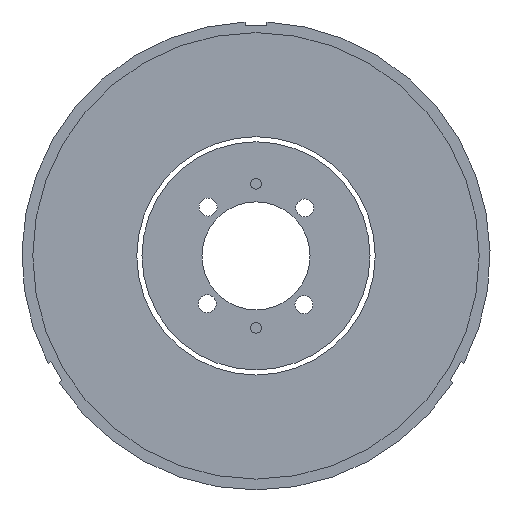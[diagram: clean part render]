
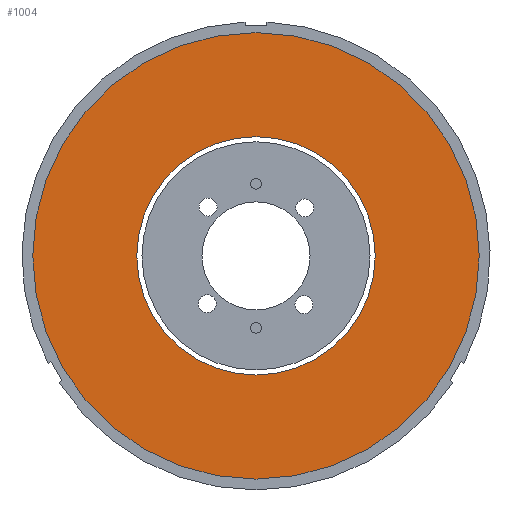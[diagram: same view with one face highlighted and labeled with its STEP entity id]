
A CAD part, front view. The second image highlights one B-rep face of the part: STEP entity #1004.
In plain terms, the highlighted planar face has unit normal (0, -1, 0).
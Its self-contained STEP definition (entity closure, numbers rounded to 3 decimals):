
#19 = CIRCLE ( 'NONE', #224, 31. ) ;
#160 = CARTESIAN_POINT ( 'NONE',  ( 1.862, 1.581, 26.4 ) ) ;
#164 = ORIENTED_EDGE ( 'NONE', *, *, #1415, .F. ) ;
#224 = AXIS2_PLACEMENT_3D ( 'NONE', #160, #3297, #422 ) ;
#263 = EDGE_LOOP ( 'NONE', ( #2492, #631 ) ) ;
#264 = EDGE_CURVE ( 'NONE', #2256, #1587, #729, .T. ) ;
#351 = AXIS2_PLACEMENT_3D ( 'NONE', #2126, #833, #2932 ) ;
#422 = DIRECTION ( 'NONE',  ( 0., 0., 1. ) ) ;
#554 = CARTESIAN_POINT ( 'NONE',  ( 1.862, 1.581, 26.4 ) ) ;
#631 = ORIENTED_EDGE ( 'NONE', *, *, #903, .T. ) ;
#682 = CIRCLE ( 'NONE', #1009, 16.55 ) ;
#729 = CIRCLE ( 'NONE', #351, 31. ) ;
#736 = CARTESIAN_POINT ( 'NONE',  ( 1.862, 1.581, -4.6 ) ) ;
#776 = DIRECTION ( 'NONE',  ( 0., 0., 1. ) ) ;
#833 = DIRECTION ( 'NONE',  ( 0., 1., 0. ) ) ;
#903 = EDGE_CURVE ( 'NONE', #1988, #3066, #682, .T. ) ;
#1004 = ADVANCED_FACE ( 'NONE', ( #1576, #3136 ), #1541, .F. ) ;
#1009 = AXIS2_PLACEMENT_3D ( 'NONE', #1568, #2061, #2336 ) ;
#1018 = EDGE_CURVE ( 'NONE', #3066, #1988, #1978, .T. ) ;
#1039 = DIRECTION ( 'NONE',  ( 0., 0., 1. ) ) ;
#1350 = CARTESIAN_POINT ( 'NONE',  ( 1.862, 1.581, 57.4 ) ) ;
#1384 = AXIS2_PLACEMENT_3D ( 'NONE', #554, #2376, #776 ) ;
#1415 = EDGE_CURVE ( 'NONE', #1587, #2256, #19, .T. ) ;
#1541 = PLANE ( 'NONE',  #1384 ) ;
#1568 = CARTESIAN_POINT ( 'NONE',  ( 1.862, 1.581, 26.4 ) ) ;
#1576 = FACE_OUTER_BOUND ( 'NONE', #1826, .T. ) ;
#1587 = VERTEX_POINT ( 'NONE', #736 ) ;
#1593 = CARTESIAN_POINT ( 'NONE',  ( 1.862, 1.581, 26.4 ) ) ;
#1826 = EDGE_LOOP ( 'NONE', ( #164, #2171 ) ) ;
#1978 = CIRCLE ( 'NONE', #2328, 16.55 ) ;
#1988 = VERTEX_POINT ( 'NONE', #3365 ) ;
#2061 = DIRECTION ( 'NONE',  ( 0., 1., 0. ) ) ;
#2126 = CARTESIAN_POINT ( 'NONE',  ( 1.862, 1.581, 26.4 ) ) ;
#2171 = ORIENTED_EDGE ( 'NONE', *, *, #264, .F. ) ;
#2256 = VERTEX_POINT ( 'NONE', #1350 ) ;
#2328 = AXIS2_PLACEMENT_3D ( 'NONE', #1593, #3376, #1039 ) ;
#2336 = DIRECTION ( 'NONE',  ( 0., 0., 1. ) ) ;
#2376 = DIRECTION ( 'NONE',  ( 0., 1., 0. ) ) ;
#2492 = ORIENTED_EDGE ( 'NONE', *, *, #1018, .T. ) ;
#2748 = CARTESIAN_POINT ( 'NONE',  ( 1.862, 1.581, 9.85 ) ) ;
#2932 = DIRECTION ( 'NONE',  ( 0., 0., 1. ) ) ;
#3066 = VERTEX_POINT ( 'NONE', #2748 ) ;
#3136 = FACE_BOUND ( 'NONE', #263, .T. ) ;
#3297 = DIRECTION ( 'NONE',  ( 0., 1., 0. ) ) ;
#3365 = CARTESIAN_POINT ( 'NONE',  ( 1.862, 1.581, 42.95 ) ) ;
#3376 = DIRECTION ( 'NONE',  ( 0., 1., 0. ) ) ;
